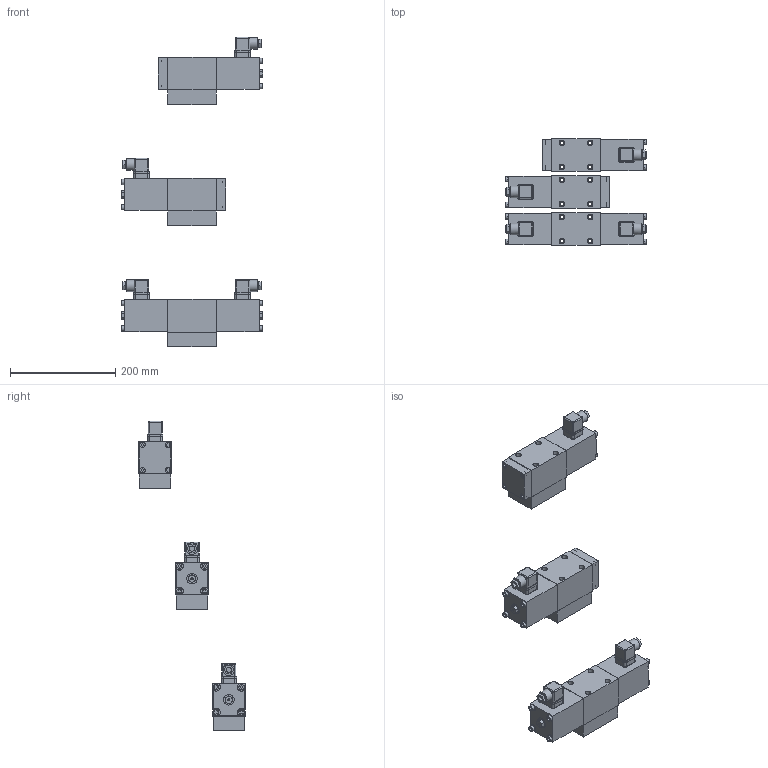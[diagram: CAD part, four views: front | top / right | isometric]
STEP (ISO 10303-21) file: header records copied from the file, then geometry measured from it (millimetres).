
FILE_DESCRIPTION(('Bauteilbeschreibung','HiCAD-Model','HiCAD-STEP-TRANSLATION','Bauteilbeschreibung'),'2;1');
FILE_NAME('D:/VWS4_10-TF.STP','2006-08-18T16:00:51+00:00',('Konstrukteur'),('Konstrukteur Firma GmbH'),'HiCAD3 V1210 STEP 1.6.2005','HiCAD3 V1210','confidential');
FILE_SCHEMA(('AUTOMOTIVE_DESIGN { 1 2 10303 214 0 1 1 1 }'));
Length unit declared in the file: millimetre
Products named in the file (75): VWS4_10_TF; VWS4D10__TF; A790BA8F; IN6KTM6; IN6KTM60; IN6KTM61; IN6KTM62; IN6KTM63; IN6KTM64; IN6KTM65; IN6KTM66; IN6KTM67; IN6KTM68; A205B8BF; ECBF662F; A7905B34; B4DFF981; CA9517B3; CA9517B30; DICHTUNG; ECBF662F0; A7905B340; B4DFF9810; CA9517B31; CA9517B32; DICHTUNG0; AE0D8C89; D82DEE49; D82DEE490; VWS4Z10_A_TF; A033CB54; IN6KTM69; IN6KTM610; IN6KTM611; IN6KTM612; IN6KTM613; A205B8BF0; ECBF662F1; A7905B341; B4DFF9811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
Assembly tree (74 placements, depth 6):
  VWS4_10_TF
    VWS4D10__TF
      A790BA8F
        IN6KTM6
          IN6KTM60
          IN6KTM61
          IN6KTM62
          IN6KTM63
        IN6KTM64
          IN6KTM65
          IN6KTM66
          IN6KTM67
          IN6KTM68
        A205B8BF
        ECBF662F
          A7905B34
          B4DFF981
          CA9517B3
          CA9517B30
            DICHTUNG
        ECBF662F0
          A7905B340
          B4DFF9810
          CA9517B31
          CA9517B32
            DICHTUNG0
        AE0D8C89
        D82DEE49
        D82DEE490
    VWS4Z10_A_TF
      A033CB54
        IN6KTM69
          IN6KTM610
          IN6KTM611
          IN6KTM612
          IN6KTM613
        A205B8BF0
        ECBF662F1
          A7905B341
          B4DFF9811
          CA9517B33
          CA9517B34
            DICHTUNG1
        AE0D8C890
        D82DEE491
        A275F443
        A275F4430
          IN6KTM614
            IN6KTM615
            IN6KTM616
            IN6KTM617
            IN6KTM618
    VWS4Z10_B_TF
      A775844C
        IN6KTM619
          IN6KTM620
          IN6KTM621
          IN6KTM622
          IN6KTM623
        A205B8BF1
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Bounding box: 269.4 x 202 x 588 mm (x, y, z)
Volume: 2879028.3 mm3; surface area: 405290.9 mm2
Topology: 64 solids, 64 shells, 1148 faces, 2642 edges, 1776 vertices
Faces by surface type: plane 710, cylinder 342, cone 72, sphere 16, torus 8
Full cylindrical faces by diameter (mm): 1.5 x12, 2.5 x4, 3 x12, 4.2 x4, 4.9 x4, 6 x24, 6.5 x48, 6.8 x8, 8 x8, 10 x28, 10.5 x20, 12 x4, 15 x8, 16.9 x15, 17 x15, 20 x4, 22 x4, 23.3 x4, 29.7 x4
Entity records: 54936 total; most frequent: CARTESIAN_POINT 7804, DIRECTION 5476, ORIENTED_EDGE 4472, COLOUR_RGB 3436, PRESENTATION_STYLE_ASSIGNMENT 3436, OVER_RIDING_STYLED_ITEM 3384, CURVE_STYLE 2236, DRAUGHTING_PRE_DEFINED_CURVE_FONT 2236
